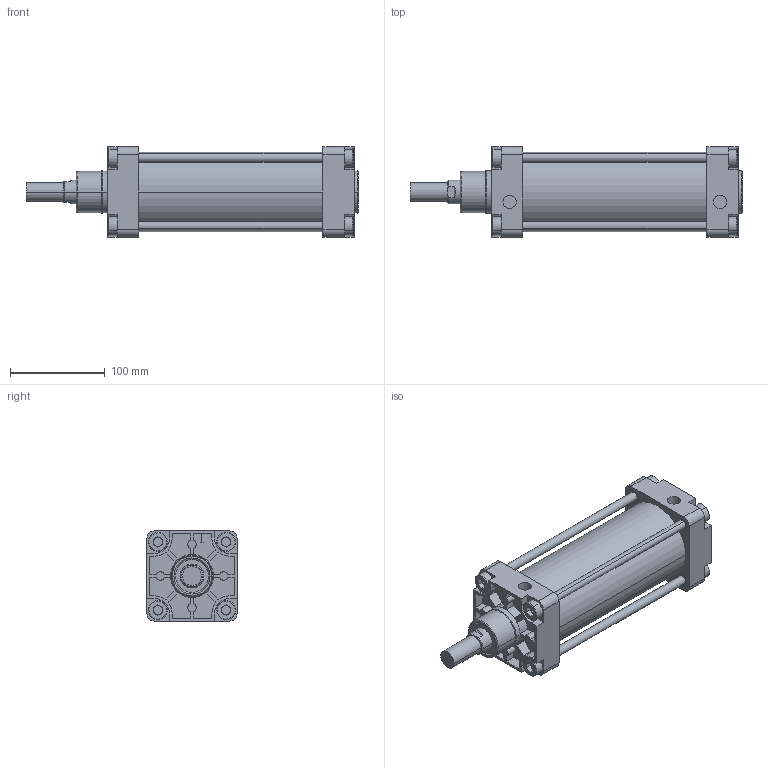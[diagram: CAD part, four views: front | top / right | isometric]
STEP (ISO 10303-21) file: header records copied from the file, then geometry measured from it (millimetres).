
FILE_DESCRIPTION(('CATIA V5 STEP Exchange'),'2;1');
FILE_NAME('D:\stp file for catalog\PNC\80\pnc 80-25-125.stp','2015-06-16T06:08:16+00:00',('none'),('none'),'Version 5-6 Release 2012','CATIA V5 STEP AP203','none');
FILE_SCHEMA(('CONFIG_CONTROL_DESIGN'));
Length unit declared in the file: millimetre
Products named in the file (1): pnc 80-25-125-00
Assembly tree (2 placements, depth 2):
  pnc 80-25-125-00
    #58
    #14781
Bounding box: 350 x 95 x 95 mm (x, y, z)
Volume: 1098855 mm3; surface area: 287886.8 mm2
Topology: 6 solids, 6 shells, 560 faces, 1404 edges, 916 vertices
Faces by surface type: plane 328, cylinder 184, torus 28, extrusion 16, cone 4
Entity records: 15305 total; most frequent: CARTESIAN_POINT 3040, ORIENTED_EDGE 2808, DIRECTION 1892, EDGE_CURVE 1404, VERTEX_POINT 916, VECTOR 898, LINE 882, AXIS2_PLACEMENT_3D 722
